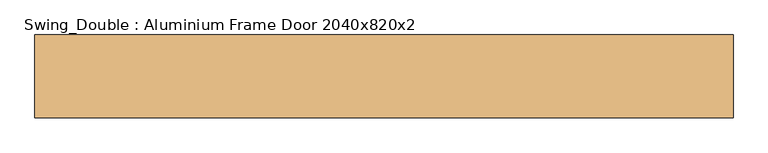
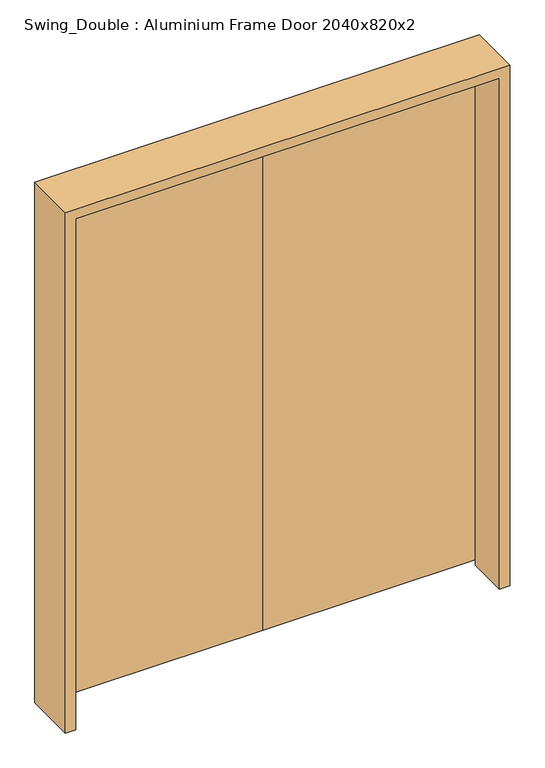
"""IFC4 building model written with IfcOpenShell, lengths in millimetres: door geometry, Swing_Double : Aluminium Frame Door 2040x820x2."""

from ifc_helpers import new_model, si_unit, frame, origin, place, context, project, spatial, polyline, outline, extrude, faceted_brep, source, transform, mapped, element, save


def swing_double_aluminium_frame_door_2040x820x2_de6b5fd8(model_context):
    return source(origin(), model_context, "Body", "SolidModel", [
        extrude(outline(polyline([(-211.5, 100.0), (608.5, 100.0), (608.5, 60.0), (-211.5, 60.0), (-211.5, 100.0)])), frame((0.0, 0.0, 20.0), z_axis=(0.0, 0.0, 1.0), x_axis=(1.0, 0.0, 0.0)), (0.0, 0.0, 1.0), 2040.0),
        extrude(outline(polyline([(-211.5, 100.0), (-211.5, 60.0), (-1031.5, 60.0), (-1031.5, 100.0), (-211.5, 100.0)])), frame((0.0, 0.0, 20.0), z_axis=(0.0, 0.0, 1.0), x_axis=(1.0, 0.0, 0.0)), (0.0, 0.0, 1.0), 2040.0),
        faceted_brep([(629.5, -100.0, 0.0), (590.5, -100.0, 0.0), (590.5, 58.0, 0.0), (610.5, 58.0, 0.0), (610.5, 100.0, 0.0), (629.5, 100.0, 0.0), (629.5, -100.0, 2081.0), (-1052.5, -100.0, 2081.0), (-1052.5, -100.0, 0.0), (-1013.5, -100.0, 0.0), (-1013.5, -100.0, 2042.0), (590.5, -100.0, 2042.0), (590.5, 58.0, 2042.0), (-1013.5, 58.0, 2042.0), (-1013.5, 58.0, 0.0), (-1033.5, 58.0, 0.0), (-1033.5, 58.0, 2062.0), (610.5, 58.0, 2062.0), (610.5, 100.0, 2062.0), (-1033.5, 100.0, 2062.0), (-1033.5, 100.0, 0.0), (-1052.5, 100.0, 0.0), (-1052.5, 100.0, 2081.0), (629.5, 100.0, 2081.0)], [[[0, 1, 2, 3, 4, 5]], [[1, 0, 6, 7, 8, 9, 10, 11]], [[2, 1, 11, 12]], [[3, 2, 12, 13, 14, 15, 16, 17]], [[4, 3, 17, 18]], [[5, 4, 18, 19, 20, 21, 22, 23]], [[0, 5, 23, 6]], [[19, 16, 15, 20]], [[8, 21, 20, 15, 14, 9]], [[7, 22, 21, 8]], [[13, 10, 9, 14]], [[6, 23, 22, 7]], [[18, 17, 16, 19]], [[12, 11, 10, 13]]]),
    ])


if __name__ == "__main__":
    model = new_model("IFC4")
    model_context = context("Model", 3, world=origin())
    ifc_project = project(units=[si_unit("LENGTHUNIT", "METRE", prefix="MILLI")], contexts=[model_context])
    site = spatial("IfcSite", under=ifc_project)
    building = spatial("IfcBuilding", under=site)
    placement = place(None, origin())
    swing_double_aluminium_frame_door_2040x820x2_shape = swing_double_aluminium_frame_door_2040x820x2_de6b5fd8(model_context)
    element("IfcDoor", 1, ObjectType="Swing_Double : Aluminium Frame Door 2040x820x2", at=placement, inside=building, context=model_context, shape_type="MappedRepresentation", body=[
        mapped(swing_double_aluminium_frame_door_2040x820x2_shape, transform((0.0, 0.0, 0.0), x_axis=(1.0, 0.0, 0.0), y_axis=(0.0, 1.0, 0.0), z_axis=(0.0, 0.0, 1.0))),
    ])
    save(model, "model.ifc")
